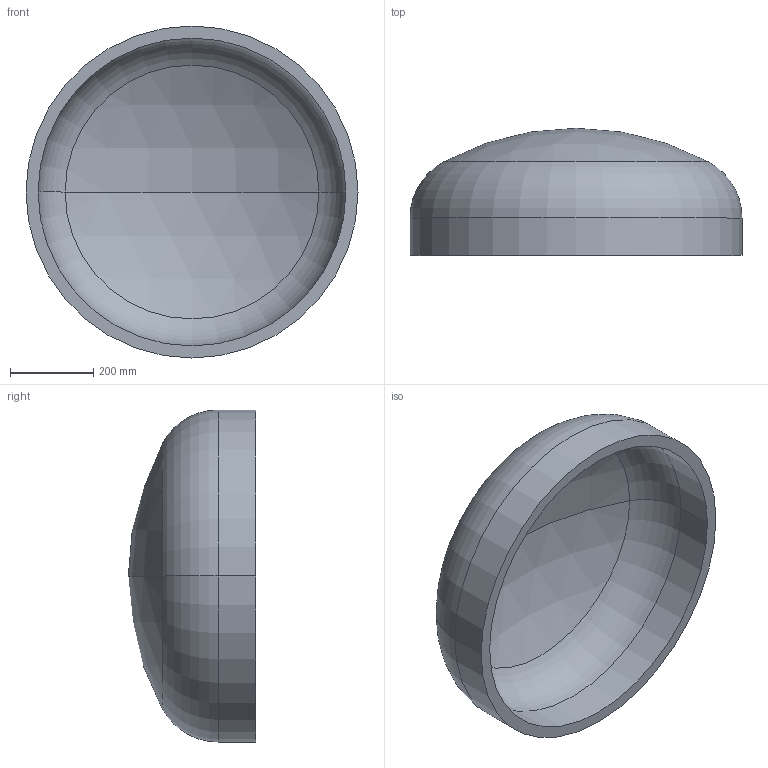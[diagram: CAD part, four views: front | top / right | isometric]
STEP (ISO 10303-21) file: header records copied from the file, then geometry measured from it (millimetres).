
FILE_DESCRIPTION (( 'STEP AP203' ), '1' );
FILE_NAME ('DIN 28013 Korbbogenform_-_Boden DIN 28013 - 800 x 90 - I - s=29.step', '2016-07-01T08:15:00', ( '' ), ( '' ), 'SwSTEP 2.0', 'SolidWorks 2013', '' );
FILE_SCHEMA (( 'CONFIG_CONTROL_DESIGN' ));
Length unit declared in the file: millimetre
Products named in the file (1): DIN 28013 Korbbogenform_-_Boden DIN 28013 - 800 x 90 - I - s=29
Bounding box: 800 x 306.55 x 800 mm (x, y, z)
Volume: 25638534.3 mm3; surface area: 1840178.6 mm2
Topology: 1 solids, 1 shells, 13 faces, 24 edges, 14 vertices
Faces by surface type: torus 4, cylinder 4, sphere 4, plane 1
Entity records: 407 total; most frequent: DIRECTION 72, CARTESIAN_POINT 52, ORIENTED_EDGE 48, AXIS2_PLACEMENT_3D 34, EDGE_CURVE 24, CIRCLE 20, EDGE_LOOP 14, VERTEX_POINT 14
